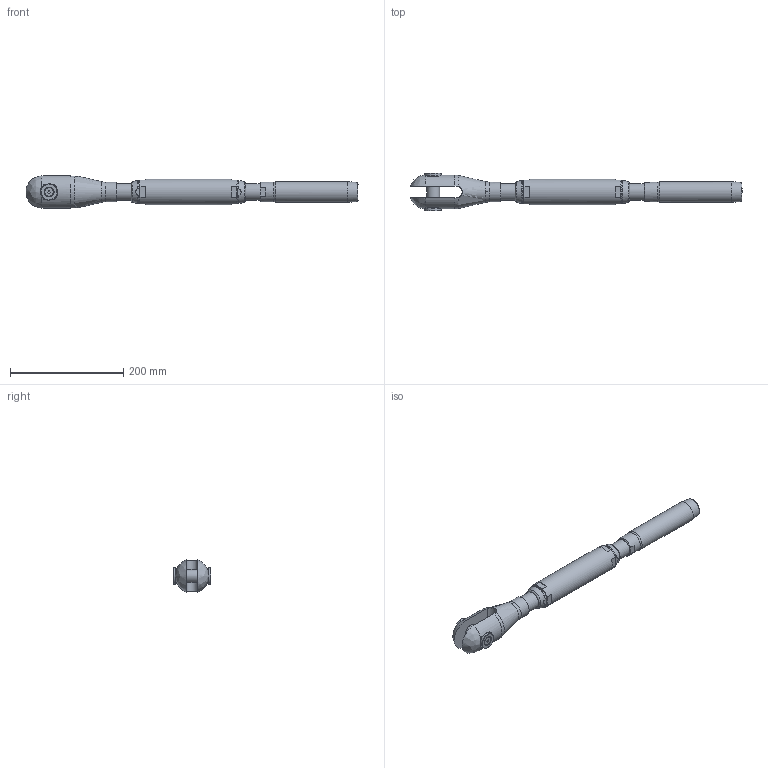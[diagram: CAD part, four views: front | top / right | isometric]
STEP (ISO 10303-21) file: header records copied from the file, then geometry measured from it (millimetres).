
FILE_DESCRIPTION(/* description */ (''),/* implementation_level */ '2;1');
FILE_NAME(/* name */ 'TBC 16_S355',/* time_stamp */ '2023-05-23T18:17:33+02:00',/* author */ (''),/* organization */ (''),/* preprocessor_version */ 'ST-DEVELOPER v16.5',/* originating_system */ 'Rhino 7.22',/* authorisation */ '');
FILE_SCHEMA (('CONFIG_CONTROL_DESIGN'));
Length unit declared in the file: millimetre
Products named in the file (1): Document
Bounding box: 586.25 x 66.54 x 56.57 mm (x, y, z)
Volume: 723067.6 mm3; surface area: 138055.6 mm2
Topology: 10 solids, 10 shells, 141 faces, 383 edges, 264 vertices
Faces by surface type: plane 65, bspline 41, cylinder 35
Full cylindrical faces by diameter (mm): 6.647 x2, 8 x2, 8.5 x2, 15.24 x2, 23 x1, 25 x2, 26.211 x4, 29 x2, 30 x2, 35 x3, 36.8 x1, 45 x1
Entity records: 5898 total; most frequent: CARTESIAN_POINT 3466, ORIENTED_EDGE 758, EDGE_CURVE 379, VERTEX_POINT 264, EDGE_LOOP 161, B_SPLINE_CURVE_WITH_KNOTS 158, ADVANCED_FACE 141, FACE_OUTER_BOUND 141
